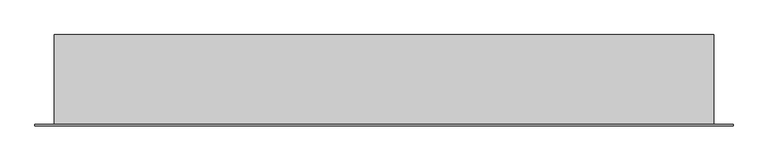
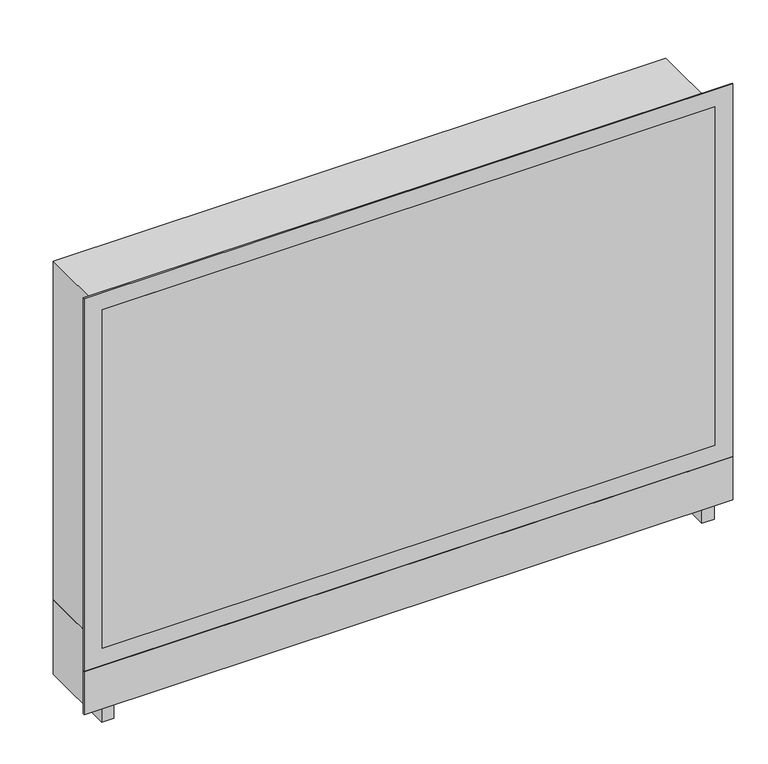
"""IFC4 building model written with IfcOpenShell, lengths in millimetres: valve geometry, PL AT Cabinet under plaster : FT-VK3/8 10-15 manifold loops."""

import ifcopenshell
import ifcopenshell.guid

model = None  # the IFC model being written
_history = None  # IfcOwnerHistory: only IFC2X3 demands one
_inside = {}  # id of a spatial element -> (the spatial element, [elements in it])
_under = {}  # id of a project, library or spatial element -> (it, [spatial elements below it])
_declared = {}  # id of a project -> (the project, [libraries it declares])
_typed = {}  # id of a type object -> (the type object, [elements of that type])
_made_of = {}  # id of a material, layer set ... -> (it, [elements and type objects made of it])


def new_model(schema):
    """Start an empty IFC model of exactly this schema.

    Asked for "IFC4X3", IfcOpenShell would pick the latest addendum, in which some entities
    have other attributes; the version numbers below select the first issue.
    IFC2X3 requires an IfcOwnerHistory on every rooted entity: one is made here for all.
    """
    global model, _history
    if schema == "IFC4X3":
        model = ifcopenshell.file(schema_version=(4, 3, 0, 0))
    else:
        model = ifcopenshell.file(schema=schema)
    _inside.clear()
    _under.clear()
    _declared.clear()
    _typed.clear()
    _made_of.clear()
    _history = None
    if model.schema == "IFC2X3":
        org = make("IfcOrganization", Name="unknown")
        user = make(
            "IfcPersonAndOrganization",
            ThePerson=make("IfcPerson", FamilyName="unknown"),
            TheOrganization=org,
        )
        app = make(
            "IfcApplication",
            ApplicationDeveloper=org,
            Version="unknown",
            ApplicationFullName="unknown",
            ApplicationIdentifier="unknown",
        )
        _history = make(
            "IfcOwnerHistory",
            OwningUser=user,
            OwningApplication=app,
            ChangeAction="ADDED",
            CreationDate=0,
        )
    return model


def make(cls, **values):
    """One entity of the class cls with the attributes given. An attribute that is None is left unset."""
    return model.create_entity(
        cls, **{name: value for name, value in values.items() if value is not None}
    )


def rooted(cls, **values):
    """An entity with a GlobalId (a new one), such as an element, a storey or a relation."""
    return make(cls, GlobalId=ifcopenshell.guid.new(), OwnerHistory=_history, **values)


def si_unit(unit_type, name, prefix=None):
    """IfcSIUnit, for example si_unit("LENGTHUNIT", "METRE", prefix="MILLI")."""
    return make("IfcSIUnit", UnitType=unit_type, Prefix=prefix, Name=name)


def assignment(units):
    """IfcUnitAssignment: the units of a project."""
    return None if units is None else make("IfcUnitAssignment", Units=units)


def point(xyz):
    """IfcCartesianPoint."""
    return None if xyz is None else make("IfcCartesianPoint", Coordinates=xyz)


def direction(xyz):
    """IfcDirection."""
    return None if xyz is None else make("IfcDirection", DirectionRatios=xyz)


def frame(location, z_axis=None, x_axis=None):
    """IfcAxis2Placement3D, a coordinate frame: its origin and axes. An axis left out is left unset."""
    return make(
        "IfcAxis2Placement3D",
        Location=point(location),
        Axis=direction(z_axis),
        RefDirection=direction(x_axis),
    )


def origin():
    """The frame at (0, 0, 0) with its axes left unset."""
    return frame((0.0, 0.0, 0.0))


def origin_with_axes():
    """The frame at (0, 0, 0) with the z axis (0, 0, 1) and the x axis (1, 0, 0) written out."""
    return frame((0.0, 0.0, 0.0), z_axis=(0.0, 0.0, 1.0), x_axis=(1.0, 0.0, 0.0))


def place(relative_to, where):
    """IfcLocalPlacement: puts the frame where relative to a parent placement (None: the world)."""
    return make(
        "IfcLocalPlacement", PlacementRelTo=relative_to, RelativePlacement=where
    )


def context(
    kind, dimensions, precision=None, world=None, true_north=None, identifier=None
):
    """IfcGeometricRepresentationContext, for example the 3D "Model" context."""
    return make(
        "IfcGeometricRepresentationContext",
        ContextIdentifier=identifier,
        ContextType=kind,
        CoordinateSpaceDimension=dimensions,
        Precision=precision,
        WorldCoordinateSystem=world,
        TrueNorth=true_north,
    )


def project(units=None, contexts=None):
    """IfcProject with its units and contexts."""
    return rooted(
        "IfcProject",
        Name="project",
        RepresentationContexts=contexts,
        UnitsInContext=assignment(units),
    )


def spatial(cls, under=None, at=None, **own):
    """A site, building, storey or space (cls), placed at a placement, below another one or the project."""
    s = rooted(cls, ObjectPlacement=at, **own)
    if under is not None:
        _under.setdefault(under.id(), (under, []))[1].append(s)
    return s


def polyline(points):
    """IfcPolyline through the points."""
    return make("IfcPolyline", Points=[point(p) for p in points])


def outline(outer, holes=None, kind="AREA"):
    """IfcArbitraryClosedProfileDef: a profile drawn as a closed curve; with holes, ...WithVoids."""
    if holes is None:
        return make("IfcArbitraryClosedProfileDef", ProfileType=kind, OuterCurve=outer)
    return make(
        "IfcArbitraryProfileDefWithVoids",
        ProfileType=kind,
        OuterCurve=outer,
        InnerCurves=holes,
    )


def extrude(swept, where, along, depth):
    """IfcExtrudedAreaSolid: the profile swept, set in the frame where, extruded along a direction by depth."""
    return make(
        "IfcExtrudedAreaSolid",
        SweptArea=swept,
        Position=where,
        ExtrudedDirection=direction(along),
        Depth=depth,
    )


def shape(context_of_items, identifier, shape_type, items):
    """IfcShapeRepresentation: the items that make up one representation, for example the "Body"."""
    return make(
        "IfcShapeRepresentation",
        ContextOfItems=context_of_items,
        RepresentationIdentifier=identifier,
        RepresentationType=shape_type,
        Items=items,
    )


def source(mapping_origin, context_of_items, identifier, shape_type, items):
    """IfcRepresentationMap: a shape defined once, which mapped items show again and again."""
    return make(
        "IfcRepresentationMap",
        MappingOrigin=mapping_origin,
        MappedRepresentation=shape(context_of_items, identifier, shape_type, items),
    )


def transform(
    local_origin,
    x_axis=None,
    y_axis=None,
    z_axis=None,
    scale=None,
    scale2=None,
    scale3=None,
    uniform=True,
):
    """IfcCartesianTransformationOperator3D, or its non-uniform kind. x_axis, y_axis, z_axis: its Axis1, 2, 3."""
    if uniform:
        return make(
            "IfcCartesianTransformationOperator3D",
            Axis1=direction(x_axis),
            Axis2=direction(y_axis),
            LocalOrigin=point(local_origin),
            Scale=scale,
            Axis3=direction(z_axis),
        )
    return make(
        "IfcCartesianTransformationOperator3DnonUniform",
        Axis1=direction(x_axis),
        Axis2=direction(y_axis),
        LocalOrigin=point(local_origin),
        Scale=scale,
        Axis3=direction(z_axis),
        Scale2=scale2,
        Scale3=scale3,
    )


def mapped(mapping_source, mapping_target):
    """IfcMappedItem: shows the shape of a source again, moved by a transform."""
    return make(
        "IfcMappedItem", MappingSource=mapping_source, MappingTarget=mapping_target
    )


def made_of(thing, what):
    """Note that an element or type object is made of a material, layer set ...; save() writes the relation."""
    if what is not None:
        _made_of.setdefault(what.id(), (what, []))[1].append(thing)
    return thing


def element(
    cls,
    number,
    at=None,
    inside=None,
    cuts=None,
    type_object=None,
    material=None,
    context=None,
    identifier="Body",
    shape_type=None,
    held_by="IfcProductDefinitionShape",
    body=None,
    shapes=None,
    **own,
):
    """One element of the class cls, such as IfcWall. Its Tag is "e" and its number.

    at: its placement. inside: the storey or other place that contains it. cuts: it is an
    opening in that element (IfcRelVoidsElement). A single representation is given by context,
    identifier, shape_type and body (its items); several are given by shapes. held_by: the class
    of the entity that holds the representations. save() writes the other relations.
    """
    e = rooted(cls, Tag="e%d" % number, ObjectPlacement=at, **own)
    if body is not None:
        shapes = [shape(context, identifier, shape_type, body)]
    if shapes is not None:
        e.Representation = make(held_by, Representations=shapes)
    if inside is not None:
        _inside.setdefault(inside.id(), (inside, []))[1].append(e)
    if cuts is not None:
        rooted(
            "IfcRelVoidsElement", RelatingBuildingElement=cuts, RelatedOpeningElement=e
        )
    if type_object is not None:
        _typed.setdefault(type_object.id(), (type_object, []))[1].append(e)
    return made_of(e, material)


def aggregate(whole, parts):
    """IfcRelAggregates: a whole, such as a stair, and the parts it consists of."""
    return rooted("IfcRelAggregates", RelatingObject=whole, RelatedObjects=parts)


def save(model, path):
    """Write the relations noted so far, then the file.

    IfcRelAggregates (storeys below a building ...), IfcRelContainedInSpatialStructure (elements
    in a storey), IfcRelDefinesByType, IfcRelAssociatesMaterial and IfcRelDeclares: one each for
    every whole, place, type object, material and project.
    """
    for whole, parts in _under.values():
        aggregate(whole, parts)
    for where, things in _inside.values():
        rooted(
            "IfcRelContainedInSpatialStructure",
            RelatedElements=things,
            RelatingStructure=where,
        )
    for kind, things in _typed.values():
        rooted("IfcRelDefinesByType", RelatedObjects=things, RelatingType=kind)
    for what, things in _made_of.values():
        rooted("IfcRelAssociatesMaterial", RelatedObjects=things, RelatingMaterial=what)
    for by, libraries in _declared.values():
        rooted("IfcRelDeclares", RelatingContext=by, RelatedDefinitions=libraries)
    model.write(path)


def valve_9806339d(model_context):
    return source(origin(), model_context, "Body", "SweptSolid", [
        extrude(outline(polyline([(-485.0, 2.0), (-505.0, 2.0), (-505.0, 140.0), (-485.0, 140.0), (-485.0, 2.0)])), origin_with_axes(), (0.0, 0.0, 1.0), 130.0),
        extrude(outline(polyline([(505.0, 2.0), (485.0, 2.0), (485.0, 140.0), (505.0, 140.0), (505.0, 2.0)])), origin_with_axes(), (0.0, 0.0, 1.0), 130.0),
        extrude(outline(polyline([(535.0, 0.0), (-535.0, 0.0), (-535.0, 2.0), (535.0, 2.0), (535.0, 0.0)])), frame((0.0, 0.0, 25.0), z_axis=(0.0, 0.0, 1.0), x_axis=(1.0, 0.0, 0.0)), (0.0, 0.0, 1.0), 75.0),
        extrude(outline(polyline([(505.0, 0.0), (-505.0, 0.0), (-505.0, 140.0), (505.0, 140.0), (505.0, 0.0)])), frame((0.0, 0.0, 130.0), z_axis=(0.0, 0.0, 1.0), x_axis=(1.0, 0.0, 0.0)), (0.0, 0.0, 1.0), 590.0),
        extrude(outline(polyline([(750.0, 535.0), (750.0, -535.0), (100.0, -535.0), (100.0, 535.0), (750.0, 535.0)]), holes=[polyline([(130.0, -505.0), (720.0, -505.0), (720.0, 505.0), (130.0, 505.0), (130.0, -505.0)])]), frame((0.0, 0.0, 0.0), z_axis=(0.0, 1.0, 0.0), x_axis=(0.0, 0.0, 1.0)), (0.0, 0.0, 1.0), 2.0),
    ])


if __name__ == "__main__":
    model = new_model("IFC4")
    model_context = context("Model", 3, world=origin())
    ifc_project = project(units=[si_unit("LENGTHUNIT", "METRE", prefix="MILLI")], contexts=[model_context])
    site = spatial("IfcSite", under=ifc_project)
    building = spatial("IfcBuilding", under=site)
    placement = place(None, origin())
    valve_shape = valve_9806339d(model_context)
    element("IfcValve", 1, ObjectType="PL AT Cabinet under plaster : FT-VK3/8 10-15 manifold loops", at=placement, inside=building, context=model_context, shape_type="MappedRepresentation", body=[
        mapped(valve_shape, transform((0.0, 0.0, 0.0), x_axis=(1.0, 0.0, 0.0), y_axis=(0.0, 1.0, 0.0), z_axis=(0.0, 0.0, 1.0))),
    ])
    save(model, "model.ifc")
